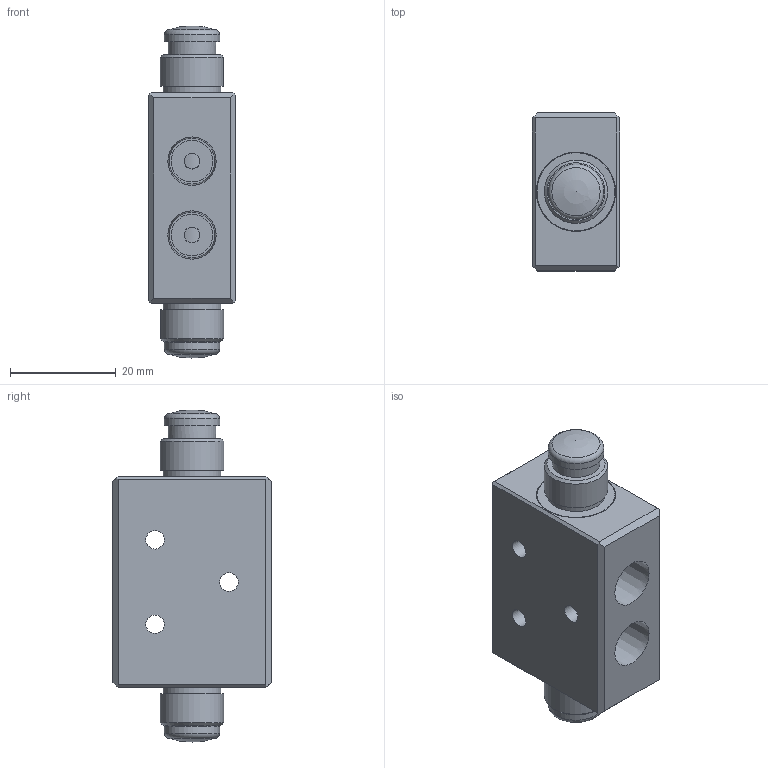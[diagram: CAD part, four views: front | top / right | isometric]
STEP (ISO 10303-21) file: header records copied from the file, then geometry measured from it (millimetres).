
FILE_DESCRIPTION (( 'STEP AP203' ), '1' );
FILE_NAME ('PBW1-E(152306).STEP', '2019-09-19T03:10:43', ( '' ), ( '' ), 'SwSTEP 2.0', 'SolidWorks 2018', '' );
FILE_SCHEMA (( 'CONFIG_CONTROL_DESIGN' ));
Length unit declared in the file: millimetre
Products named in the file (2): PBW1-E(152306)
Bounding box: 16.5 x 30 x 62.9 mm (x, y, z)
Volume: 19449.4 mm3; surface area: 7594.2 mm2
Topology: 1 solids, 10 shells, 241 faces, 590 edges, 393 vertices
Faces by surface type: plane 122, bspline 50, cylinder 43, cone 22, sphere 2, torus 2
Full cylindrical faces by diameter (mm): 2 x2, 3 x3, 3.1 x2, 3.5 x8, 4.2 x2, 5 x2, 7.9 x3, 9 x2, 10.5 x4, 11 x6, 12 x2, 15 x4
Entity records: 8396 total; most frequent: CARTESIAN_POINT 3253, ORIENTED_EDGE 984, DIRECTION 863, EDGE_CURVE 492, VERTEX_POINT 361, EDGE_LOOP 359, LINE 293, VECTOR 293
